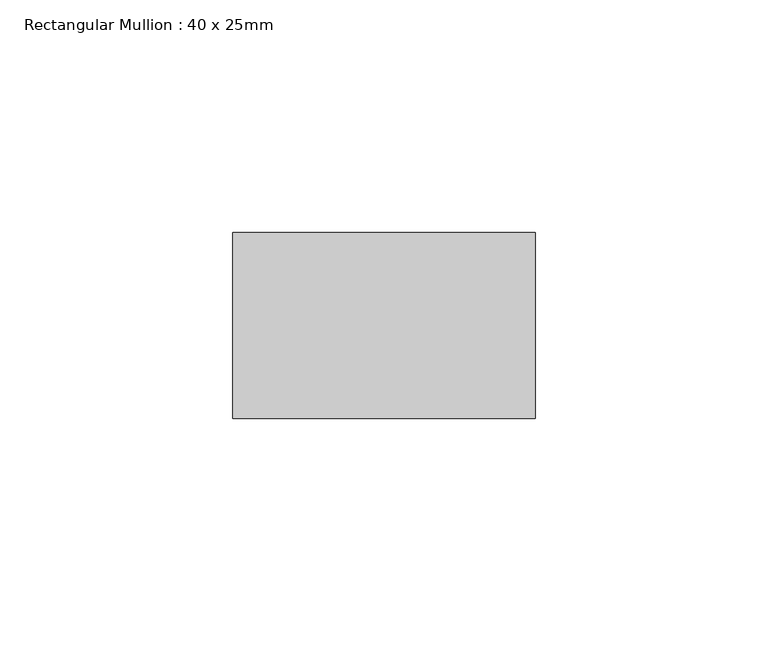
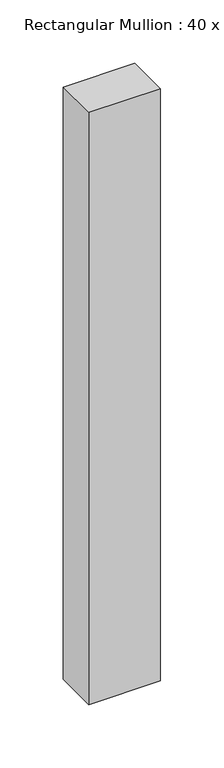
"""IFC4 building model written with IfcOpenShell, lengths in millimetres: member geometry, Rectangular Mullion : 40 x 25mm."""

from ifc_helpers import new_model, si_unit, frame, origin, place, context, project, spatial, polyline, outline, extrude, source, transform, mapped, element, save


def rectangular_mullion_40_x_25mm_6f64b7ae(model_context):
    return source(origin(), model_context, "Body", "SweptSolid", [
        extrude(outline(polyline([(0.0, -20.0), (0.0, -60.0), (-65.0, -60.0), (-65.0, -20.0), (0.0, -20.0)])), frame((0.0, 0.0, -570.0), z_axis=(0.0, 0.0, 1.0), x_axis=(1.0, 0.0, 0.0)), (0.0, 0.0, 1.0), 570.0),
    ])


if __name__ == "__main__":
    model = new_model("IFC4")
    model_context = context("Model", 3, world=origin())
    ifc_project = project(units=[si_unit("LENGTHUNIT", "METRE", prefix="MILLI")], contexts=[model_context])
    site = spatial("IfcSite", under=ifc_project)
    building = spatial("IfcBuilding", under=site)
    placement = place(None, origin())
    rectangular_mullion_40_x_25mm_shape = rectangular_mullion_40_x_25mm_6f64b7ae(model_context)
    element("IfcMember", 1, ObjectType="Rectangular Mullion : 40 x 25mm", at=placement, inside=building, context=model_context, shape_type="MappedRepresentation", body=[
        mapped(rectangular_mullion_40_x_25mm_shape, transform((0.0, 0.0, 0.0), x_axis=(1.0, 0.0, 0.0), y_axis=(0.0, 1.0, 0.0), z_axis=(0.0, 0.0, 1.0))),
    ])
    save(model, "model.ifc")
